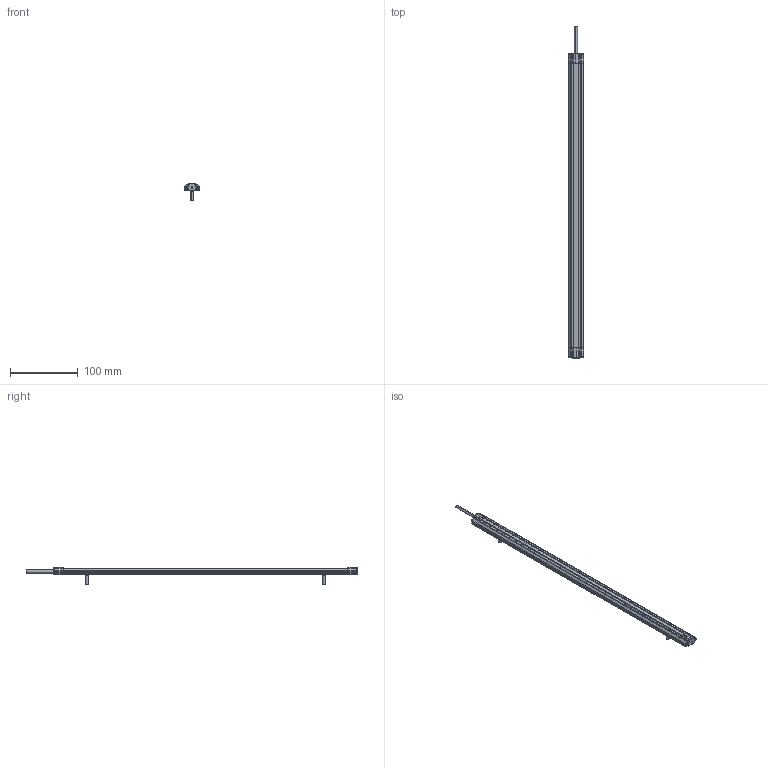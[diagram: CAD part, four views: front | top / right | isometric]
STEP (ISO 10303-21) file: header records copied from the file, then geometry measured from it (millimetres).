
FILE_DESCRIPTION (( 'STEP AP214' ), '1' );
FILE_NAME ('ILGA-B-K1-0450mm.STEP', '2026-04-24T22:49:38', ( '' ), ( '' ), 'SwSTEP 2.0', 'SolidWorks 2025', '' );
FILE_SCHEMA (( 'AUTOMOTIVE_DESIGN' ));
Length unit declared in the file: millimetre
Products named in the file (1): ILGA-B-K1-0450mm
Bounding box: 22.4 x 490 x 25.7 mm (x, y, z)
Volume: 36361 mm3; surface area: 62611.7 mm2
Topology: 11 solids, 11 shells, 706 faces, 1824 edges, 1116 vertices
Faces by surface type: plane 308, cylinder 260, cone 56, torus 42, bspline 24, sphere 16
Entity records: 29565 total; most frequent: CARTESIAN_POINT 4547, DIRECTION 3732, ORIENTED_EDGE 3560, EDGE_CURVE 1780, AXIS2_PLACEMENT_3D 1389, VERTEX_POINT 1116, LINE 954, VECTOR 954
